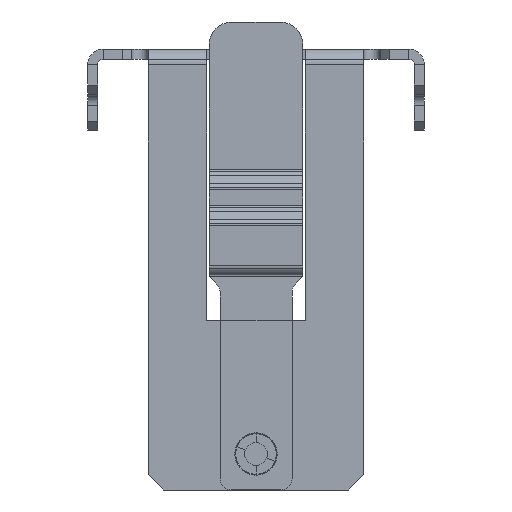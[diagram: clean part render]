
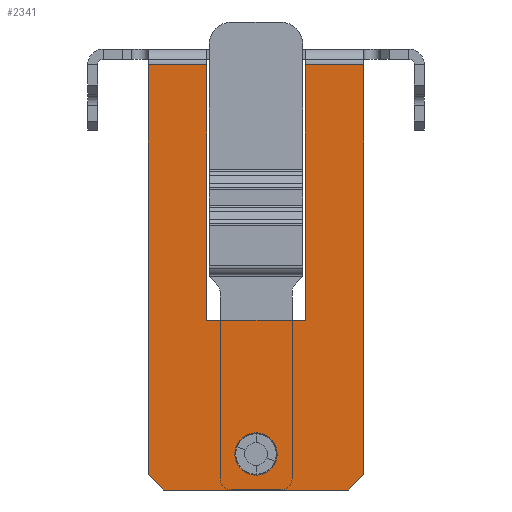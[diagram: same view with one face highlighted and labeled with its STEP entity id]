
A CAD part, left-side view. The second image highlights one B-rep face of the part: STEP entity #2341.
In plain terms, the highlighted planar face has unit normal (-1, 0, 0).
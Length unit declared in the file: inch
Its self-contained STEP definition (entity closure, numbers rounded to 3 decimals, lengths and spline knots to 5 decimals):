
#35 = CARTESIAN_POINT ( 'NONE',  ( -10.6, 0., -2.194 ) ) ;
#54 = VERTEX_POINT ( 'NONE', #4650 ) ;
#100 = CARTESIAN_POINT ( 'NONE',  ( -10.6, -0.275, -1.452 ) ) ;
#105 = VECTOR ( 'NONE', #2176, 39.37008 ) ;
#137 = VERTEX_POINT ( 'NONE', #2576 ) ;
#148 = ORIENTED_EDGE ( 'NONE', *, *, #4040, .F. ) ;
#219 = DIRECTION ( 'NONE',  ( 0., 0., 1. ) ) ;
#242 = VECTOR ( 'NONE', #1700, 39.37008 ) ;
#279 = ORIENTED_EDGE ( 'NONE', *, *, #2521, .T. ) ;
#314 = DIRECTION ( 'NONE',  ( 0., 0., -1. ) ) ;
#343 = CARTESIAN_POINT ( 'NONE',  ( -10.6, -0.515, -2.394 ) ) ;
#629 = VERTEX_POINT ( 'NONE', #4230 ) ;
#659 = VECTOR ( 'NONE', #1537, 39.37008 ) ;
#766 = EDGE_CURVE ( 'NONE', #2824, #2045, #2023, .T. ) ;
#848 = VERTEX_POINT ( 'NONE', #4322 ) ;
#870 = ORIENTED_EDGE ( 'NONE', *, *, #2178, .F. ) ;
#920 = LINE ( 'NONE', #2121, #3058 ) ;
#923 = VECTOR ( 'NONE', #219, 39.37008 ) ;
#934 = ORIENTED_EDGE ( 'NONE', *, *, #766, .T. ) ;
#1000 = VECTOR ( 'NONE', #314, 39.37008 ) ;
#1135 = FACE_BOUND ( 'NONE', #2846, .T. ) ;
#1141 = ORIENTED_EDGE ( 'NONE', *, *, #3434, .F. ) ;
#1328 = DIRECTION ( 'NONE',  ( 0., 1., 0. ) ) ;
#1373 = DIRECTION ( 'NONE',  ( 0., 0.707, 0.707 ) ) ;
#1384 = LINE ( 'NONE', #4800, #242 ) ;
#1387 = LINE ( 'NONE', #3469, #105 ) ;
#1413 = ORIENTED_EDGE ( 'NONE', *, *, #5321, .F. ) ;
#1462 = DIRECTION ( 'NONE',  ( 1., 0., 0. ) ) ;
#1512 = VERTEX_POINT ( 'NONE', #100 ) ;
#1537 = DIRECTION ( 'NONE',  ( 0., 1., 0. ) ) ;
#1591 = CARTESIAN_POINT ( 'NONE',  ( -10.6, -0.6, 0. ) ) ;
#1626 = EDGE_CURVE ( 'NONE', #629, #4937, #5494, .T. ) ;
#1690 = ORIENTED_EDGE ( 'NONE', *, *, #1626, .T. ) ;
#1700 = DIRECTION ( 'NONE',  ( 0., 1., 0. ) ) ;
#1777 = DIRECTION ( 'NONE',  ( 0., 0., 1. ) ) ;
#1914 = CARTESIAN_POINT ( 'NONE',  ( -10.6, 0.6, -0.032 ) ) ;
#2023 = LINE ( 'NONE', #3035, #4391 ) ;
#2036 = ORIENTED_EDGE ( 'NONE', *, *, #4162, .F. ) ;
#2045 = VERTEX_POINT ( 'NONE', #2613 ) ;
#2121 = CARTESIAN_POINT ( 'NONE',  ( -10.6, -0.515, -2.394 ) ) ;
#2144 = DIRECTION ( 'NONE',  ( 0., 1., 0. ) ) ;
#2176 = DIRECTION ( 'NONE',  ( 0., 0., -1. ) ) ;
#2178 = EDGE_CURVE ( 'NONE', #848, #137, #4704, .T. ) ;
#2294 = CARTESIAN_POINT ( 'NONE',  ( -10.6, 0.6, -2.309 ) ) ;
#2341 = ADVANCED_FACE ( 'NONE', ( #1135, #3920 ), #3939, .F. ) ;
#2391 = LINE ( 'NONE', #4344, #5367 ) ;
#2431 = VERTEX_POINT ( 'NONE', #343 ) ;
#2468 = EDGE_CURVE ( 'NONE', #3576, #54, #4781, .T. ) ;
#2521 = EDGE_CURVE ( 'NONE', #2045, #1512, #1387, .T. ) ;
#2526 = EDGE_LOOP ( 'NONE', ( #5334, #934, #279, #3773, #1690, #2879, #2036, #870, #148, #1141 ) ) ;
#2533 = CARTESIAN_POINT ( 'NONE',  ( -10.6, -0.6, -2.309 ) ) ;
#2539 = DIRECTION ( 'NONE',  ( 0., 0.707, -0.707 ) ) ;
#2556 = EDGE_CURVE ( 'NONE', #4937, #4450, #2391, .T. ) ;
#2576 = CARTESIAN_POINT ( 'NONE',  ( -10.6, 0.6, -2.309 ) ) ;
#2600 = CARTESIAN_POINT ( 'NONE',  ( -10.6, -0.6, -0.032 ) ) ;
#2613 = CARTESIAN_POINT ( 'NONE',  ( -10.6, -0.275, -0.032 ) ) ;
#2649 = DIRECTION ( 'NONE',  ( -1., 0., 0. ) ) ;
#2689 = AXIS2_PLACEMENT_3D ( 'NONE', #3093, #5185, #4735 ) ;
#2797 = LINE ( 'NONE', #3291, #4768 ) ;
#2824 = VERTEX_POINT ( 'NONE', #2600 ) ;
#2846 = EDGE_LOOP ( 'NONE', ( #1413, #4942 ) ) ;
#2879 = ORIENTED_EDGE ( 'NONE', *, *, #2556, .T. ) ;
#2888 = DIRECTION ( 'NONE',  ( 0., 0., 1. ) ) ;
#2895 = CARTESIAN_POINT ( 'NONE',  ( -10.6, 0., 0. ) ) ;
#3025 = VERTEX_POINT ( 'NONE', #2533 ) ;
#3035 = CARTESIAN_POINT ( 'NONE',  ( -10.6, 0.6, -0.032 ) ) ;
#3058 = VECTOR ( 'NONE', #2539, 39.37008 ) ;
#3093 = CARTESIAN_POINT ( 'NONE',  ( -10.6, 0., -2.194 ) ) ;
#3258 = CIRCLE ( 'NONE', #2689, 0.1175 ) ;
#3259 = EDGE_CURVE ( 'NONE', #2824, #3025, #4315, .T. ) ;
#3279 = LINE ( 'NONE', #4127, #659 ) ;
#3291 = CARTESIAN_POINT ( 'NONE',  ( -10.6, 0.6, 0. ) ) ;
#3292 = EDGE_CURVE ( 'NONE', #1512, #629, #3279, .T. ) ;
#3335 = VECTOR ( 'NONE', #1373, 39.37008 ) ;
#3434 = EDGE_CURVE ( 'NONE', #3025, #2431, #920, .T. ) ;
#3442 = CARTESIAN_POINT ( 'NONE',  ( -10.6, 0.275, -0.032 ) ) ;
#3469 = CARTESIAN_POINT ( 'NONE',  ( -10.6, -0.275, 0.348 ) ) ;
#3576 = VERTEX_POINT ( 'NONE', #5108 ) ;
#3751 = DIRECTION ( 'NONE',  ( 0., 0., 1. ) ) ;
#3773 = ORIENTED_EDGE ( 'NONE', *, *, #3292, .T. ) ;
#3920 = FACE_OUTER_BOUND ( 'NONE', #2526, .T. ) ;
#3939 = PLANE ( 'NONE',  #5262 ) ;
#4040 = EDGE_CURVE ( 'NONE', #2431, #848, #1384, .T. ) ;
#4127 = CARTESIAN_POINT ( 'NONE',  ( -10.6, -0.275, -1.452 ) ) ;
#4162 = EDGE_CURVE ( 'NONE', #137, #4450, #2797, .T. ) ;
#4230 = CARTESIAN_POINT ( 'NONE',  ( -10.6, 0.275, -1.452 ) ) ;
#4315 = LINE ( 'NONE', #1591, #1000 ) ;
#4322 = CARTESIAN_POINT ( 'NONE',  ( -10.6, 0.515, -2.394 ) ) ;
#4344 = CARTESIAN_POINT ( 'NONE',  ( -10.6, 0.6, -0.032 ) ) ;
#4391 = VECTOR ( 'NONE', #1328, 39.37008 ) ;
#4450 = VERTEX_POINT ( 'NONE', #1914 ) ;
#4650 = CARTESIAN_POINT ( 'NONE',  ( -10.6, 0., -2.3115 ) ) ;
#4704 = LINE ( 'NONE', #2294, #3335 ) ;
#4735 = DIRECTION ( 'NONE',  ( 0., 0., 1. ) ) ;
#4768 = VECTOR ( 'NONE', #3751, 39.37008 ) ;
#4781 = CIRCLE ( 'NONE', #5154, 0.1175 ) ;
#4800 = CARTESIAN_POINT ( 'NONE',  ( -10.6, 0., -2.394 ) ) ;
#4903 = CARTESIAN_POINT ( 'NONE',  ( -10.6, 0.275, 0.348 ) ) ;
#4937 = VERTEX_POINT ( 'NONE', #3442 ) ;
#4942 = ORIENTED_EDGE ( 'NONE', *, *, #2468, .F. ) ;
#5108 = CARTESIAN_POINT ( 'NONE',  ( -10.6, 0., -2.0765 ) ) ;
#5154 = AXIS2_PLACEMENT_3D ( 'NONE', #35, #2649, #1777 ) ;
#5185 = DIRECTION ( 'NONE',  ( -1., 0., 0. ) ) ;
#5262 = AXIS2_PLACEMENT_3D ( 'NONE', #2895, #1462, #2888 ) ;
#5321 = EDGE_CURVE ( 'NONE', #54, #3576, #3258, .T. ) ;
#5334 = ORIENTED_EDGE ( 'NONE', *, *, #3259, .F. ) ;
#5367 = VECTOR ( 'NONE', #2144, 39.37008 ) ;
#5494 = LINE ( 'NONE', #4903, #923 ) ;
